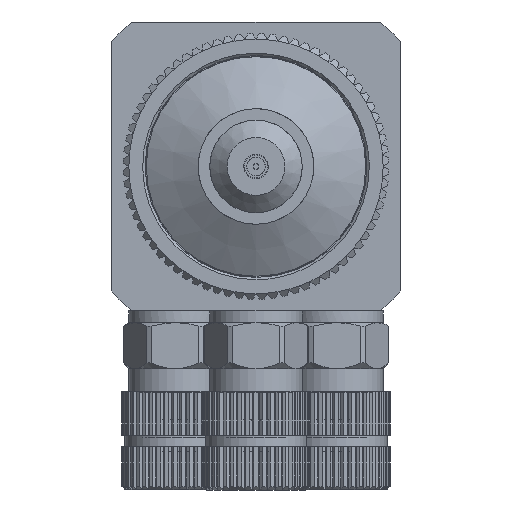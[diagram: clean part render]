
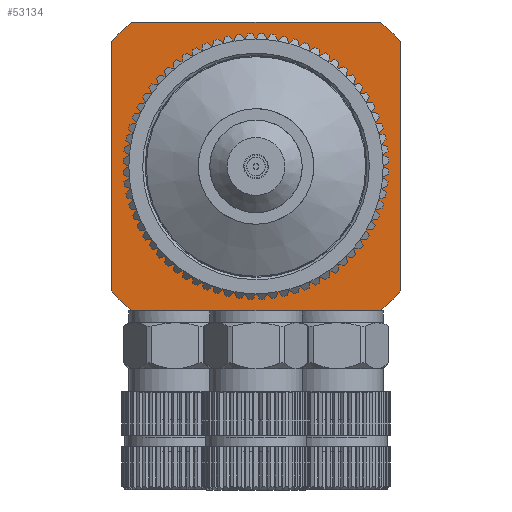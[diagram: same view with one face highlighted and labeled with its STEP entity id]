
A CAD part, front view. The second image highlights one B-rep face of the part: STEP entity #53134.
In plain terms, the highlighted planar face has unit normal (0, -1, 0).
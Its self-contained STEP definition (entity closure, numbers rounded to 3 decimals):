
#45 = CIRCLE ( 'NONE', #7401, 16.5 ) ;
#278 = AXIS2_PLACEMENT_3D ( 'NONE', #56805, #52210, #8472 ) ;
#554 = CARTESIAN_POINT ( 'NONE',  ( 12.5, -12.5, 12.5 ) ) ;
#836 = LINE ( 'NONE', #554, #55757 ) ;
#914 = CARTESIAN_POINT ( 'NONE',  ( 0., -12.5, -12.5 ) ) ;
#1639 = EDGE_CURVE ( 'NONE', #29150, #10742, #45, .T. ) ;
#2493 = LINE ( 'NONE', #16558, #40782 ) ;
#3445 = FACE_OUTER_BOUND ( 'NONE', #13389, .T. ) ;
#4487 = EDGE_CURVE ( 'NONE', #40820, #29774, #29728, .T. ) ;
#5213 = EDGE_CURVE ( 'NONE', #40820, #32060, #2493, .T. ) ;
#5480 = CARTESIAN_POINT ( 'NONE',  ( -12.5, -12.5, 12.5 ) ) ;
#7401 = AXIS2_PLACEMENT_3D ( 'NONE', #51408, #55987, #20608 ) ;
#7877 = AXIS2_PLACEMENT_3D ( 'NONE', #34432, #47655, #8505 ) ;
#8147 = ORIENTED_EDGE ( 'NONE', *, *, #5213, .F. ) ;
#8472 = DIRECTION ( 'NONE',  ( 0., 0., 1. ) ) ;
#8505 = DIRECTION ( 'NONE',  ( 0., 0., 1. ) ) ;
#9326 = EDGE_CURVE ( 'NONE', #11093, #29150, #836, .T. ) ;
#9611 = CARTESIAN_POINT ( 'NONE',  ( 12.5, -12.5, 10.77 ) ) ;
#10742 = VERTEX_POINT ( 'NONE', #44262 ) ;
#11093 = VERTEX_POINT ( 'NONE', #9611 ) ;
#12181 = EDGE_CURVE ( 'NONE', #15161, #10742, #16471, .T. ) ;
#13063 = VECTOR ( 'NONE', #20656, 1000. ) ;
#13332 = VERTEX_POINT ( 'NONE', #43599 ) ;
#13389 = EDGE_LOOP ( 'NONE', ( #25317, #20854, #48410, #40396, #8147, #41731, #26855, #13614, #56926 ) ) ;
#13614 = ORIENTED_EDGE ( 'NONE', *, *, #25933, .T. ) ;
#14118 = LINE ( 'NONE', #5480, #29581 ) ;
#14804 = AXIS2_PLACEMENT_3D ( 'NONE', #43746, #52363, #35106 ) ;
#15161 = VERTEX_POINT ( 'NONE', #914 ) ;
#16151 = DIRECTION ( 'NONE',  ( 0., 0., 1. ) ) ;
#16471 = LINE ( 'NONE', #51602, #40414 ) ;
#16558 = CARTESIAN_POINT ( 'NONE',  ( -12.5, -12.5, 12.5 ) ) ;
#16722 = DIRECTION ( 'NONE',  ( 0., 0., 1. ) ) ;
#17968 = CARTESIAN_POINT ( 'NONE',  ( -12.5, -12.5, 10.77 ) ) ;
#19303 = DIRECTION ( 'NONE',  ( 0., 0., 1. ) ) ;
#19929 = CARTESIAN_POINT ( 'NONE',  ( 0., -12.5, 0. ) ) ;
#20467 = DIRECTION ( 'NONE',  ( 0., -1., 0. ) ) ;
#20608 = DIRECTION ( 'NONE',  ( 0., 0., 1. ) ) ;
#20656 = DIRECTION ( 'NONE',  ( 1., 0., 0. ) ) ;
#20854 = ORIENTED_EDGE ( 'NONE', *, *, #1639, .F. ) ;
#20894 = CARTESIAN_POINT ( 'NONE',  ( -12.5, -12.5, -10.77 ) ) ;
#21166 = CIRCLE ( 'NONE', #26694, 16.5 ) ;
#23324 = CARTESIAN_POINT ( 'NONE',  ( -10.77, -12.5, 12.5 ) ) ;
#24464 = CARTESIAN_POINT ( 'NONE',  ( 12.5, -12.5, -10.77 ) ) ;
#25317 = ORIENTED_EDGE ( 'NONE', *, *, #12181, .T. ) ;
#25933 = EDGE_CURVE ( 'NONE', #39636, #13332, #30608, .T. ) ;
#26694 = AXIS2_PLACEMENT_3D ( 'NONE', #33172, #20467, #16151 ) ;
#26855 = ORIENTED_EDGE ( 'NONE', *, *, #51618, .F. ) ;
#29150 = VERTEX_POINT ( 'NONE', #24464 ) ;
#29581 = VECTOR ( 'NONE', #19303, 1000. ) ;
#29709 = VERTEX_POINT ( 'NONE', #42362 ) ;
#29728 = CIRCLE ( 'NONE', #39825, 16.5 ) ;
#29774 = VERTEX_POINT ( 'NONE', #17968 ) ;
#30608 = CIRCLE ( 'NONE', #278, 16.5 ) ;
#32060 = VERTEX_POINT ( 'NONE', #47516 ) ;
#33172 = CARTESIAN_POINT ( 'NONE',  ( 0., -12.5, 0. ) ) ;
#33361 = CARTESIAN_POINT ( 'NONE',  ( 0., -12.5, -12.5 ) ) ;
#34432 = CARTESIAN_POINT ( 'NONE',  ( 0., -12.5, 0. ) ) ;
#34814 = FACE_BOUND ( 'NONE', #54101, .T. ) ;
#35106 = DIRECTION ( 'NONE',  ( 0., 0., -1. ) ) ;
#37609 = DIRECTION ( 'NONE',  ( 1., 0., 0. ) ) ;
#38086 = DIRECTION ( 'NONE',  ( 1., 0., 0. ) ) ;
#39163 = CIRCLE ( 'NONE', #7877, 10.5 ) ;
#39636 = VERTEX_POINT ( 'NONE', #20894 ) ;
#39825 = AXIS2_PLACEMENT_3D ( 'NONE', #19929, #42086, #16722 ) ;
#40396 = ORIENTED_EDGE ( 'NONE', *, *, #50157, .T. ) ;
#40414 = VECTOR ( 'NONE', #38086, 1000. ) ;
#40782 = VECTOR ( 'NONE', #37609, 1000. ) ;
#40820 = VERTEX_POINT ( 'NONE', #23324 ) ;
#41731 = ORIENTED_EDGE ( 'NONE', *, *, #4487, .T. ) ;
#42086 = DIRECTION ( 'NONE',  ( 0., -1., 0. ) ) ;
#42362 = CARTESIAN_POINT ( 'NONE',  ( 0., -12.5, 10.5 ) ) ;
#43599 = CARTESIAN_POINT ( 'NONE',  ( -10.77, -12.5, -12.5 ) ) ;
#43746 = CARTESIAN_POINT ( 'NONE',  ( 12.5, -12.5, 12.5 ) ) ;
#44262 = CARTESIAN_POINT ( 'NONE',  ( 10.77, -12.5, -12.5 ) ) ;
#45239 = LINE ( 'NONE', #33361, #13063 ) ;
#46190 = EDGE_CURVE ( 'NONE', #29709, #29709, #39163, .T. ) ;
#47516 = CARTESIAN_POINT ( 'NONE',  ( 10.77, -12.5, 12.5 ) ) ;
#47655 = DIRECTION ( 'NONE',  ( 0., 1., 0. ) ) ;
#48410 = ORIENTED_EDGE ( 'NONE', *, *, #9326, .F. ) ;
#50157 = EDGE_CURVE ( 'NONE', #11093, #32060, #21166, .T. ) ;
#51408 = CARTESIAN_POINT ( 'NONE',  ( 0., -12.5, 0. ) ) ;
#51602 = CARTESIAN_POINT ( 'NONE',  ( 0., -12.5, -12.5 ) ) ;
#51618 = EDGE_CURVE ( 'NONE', #39636, #29774, #14118, .T. ) ;
#52210 = DIRECTION ( 'NONE',  ( 0., -1., 0. ) ) ;
#52363 = DIRECTION ( 'NONE',  ( 0., -1., 0. ) ) ;
#53134 = ADVANCED_FACE ( 'NONE', ( #34814, #3445 ), #55811, .T. ) ;
#54058 = DIRECTION ( 'NONE',  ( 0., 0., -1. ) ) ;
#54101 = EDGE_LOOP ( 'NONE', ( #55278 ) ) ;
#54707 = EDGE_CURVE ( 'NONE', #13332, #15161, #45239, .T. ) ;
#55278 = ORIENTED_EDGE ( 'NONE', *, *, #46190, .T. ) ;
#55757 = VECTOR ( 'NONE', #54058, 1000. ) ;
#55811 = PLANE ( 'NONE',  #14804 ) ;
#55987 = DIRECTION ( 'NONE',  ( 0., 1., 0. ) ) ;
#56805 = CARTESIAN_POINT ( 'NONE',  ( 0., -12.5, 0. ) ) ;
#56926 = ORIENTED_EDGE ( 'NONE', *, *, #54707, .T. ) ;
